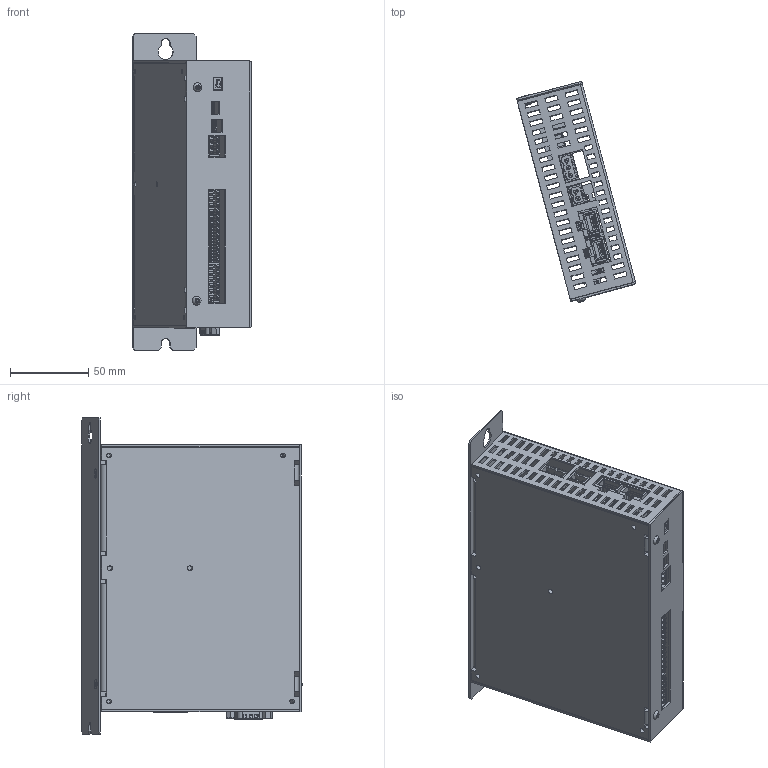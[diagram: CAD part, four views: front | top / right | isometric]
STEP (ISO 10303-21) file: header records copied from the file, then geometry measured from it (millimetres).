
FILE_DESCRIPTION(/* description */ (''),/* implementation_level */ '2;1');
FILE_NAME(/* name */ 'C:\Users\Jean-Yves\Documents\Inventor\SMD230\smd230-1a version A\smd-1a_Shrinkwrap_2.stp',/* time_stamp */ '2020-05-15T08:47:51+02:00',/* author */ ('Jean-Yves'),/* organization */ (''),/* preprocessor_version */ 'ST-DEVELOPER v18',/* originating_system */ 'Autodesk Inventor 2020',/* authorisation */ '');
FILE_SCHEMA (('CONFIG_CONTROL_DESIGN'));
Products named in the file (1): smd-1a_Shrinkwrap_2
Bounding box: 75.88 x 140.58 x 202 mm (x, y, z)
Volume: 134078.2 mm3; surface area: 165086.9 mm2
Topology: 22 solids, 22 shells, 6667 faces, 17491 edges, 11205 vertices
Faces by surface type: plane 5262, cylinder 1007, cone 167, bspline 111, torus 76, sphere 44
Full cylindrical faces by diameter (mm): 0.434 x3, 0.457 x3, 0.8 x1, 1.12 x9, 1.2 x21, 1.25 x21, 1.36 x9, 1.4 x9, 1.5 x9, 1.6 x18, 1.72 x9, 2.25 x9, 2.459 x6, 2.5 x4, 2.8 x6, 3 x10, 3.1 x2, 3.2 x2, 3.3 x2, 3.5 x2, 4 x2, 4.2 x2, 6 x2
Entity records: 223903 total; most frequent: CARTESIAN_POINT 51462, ORIENTED_EDGE 34864, DIRECTION 33011, EDGE_CURVE 17432, LINE 14203, VECTOR 14203, VERTEX_POINT 11204, AXIS2_PLACEMENT_3D 9404
